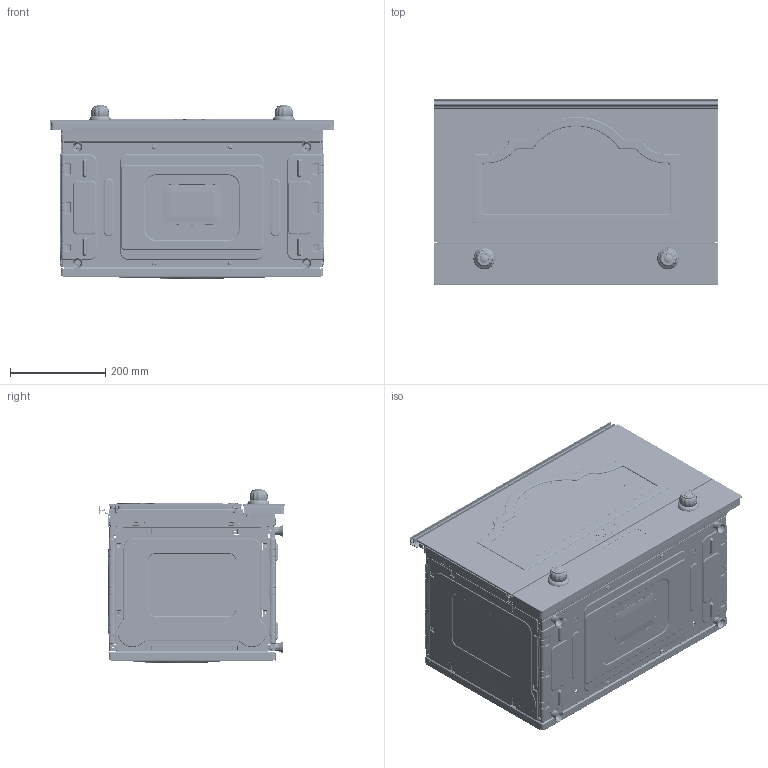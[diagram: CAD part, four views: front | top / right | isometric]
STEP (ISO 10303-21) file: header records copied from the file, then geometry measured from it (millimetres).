
FILE_DESCRIPTION((''),'2;1');
FILE_NAME('192040004_ASM','2025-05-15T11:22:29',('rui.goncalves'),('TCA'),'CREO PARAMETRIC BY PTC INC, 2022484','CREO PARAMETRIC BY PTC INC, 2022484','');
FILE_SCHEMA(('AUTOMOTIVE_DESIGN { 1 0 10303 214 1 1 1 1 }'));
Products named in the file (62): 1730035; 1730038; 1730040; 1730036; 1730034; 1730037; 1730026; 1730027; 1730028; 1730029; 1760008_ASM; 1760011_ASM; 1730048; 1730048_CONJ_ASM; 1720008; 953311; 953310; 1730044; 1730124; 1760003; 1760063; 1760064; 1730141; 163304; 1730138; 1730560; 1760418_ASM; 1630624; 1760417_ASM; 1760002; 1730204; 1730506; 1630619; 1760420_ASM; 1730030; 1730032; 1760009_ASM; 1730049; 1760017; 1730054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
Assembly tree (93 placements, depth 4):
  192040004_ASM
    1760011_ASM
      1730035
      1730038
      1730040
      1730036
      1730034
      1730037
      1760008_ASM
        1730026
        1730027
        1730028
        1730029
    1730048_CONJ_ASM
      1730048
    1720008
    953311  x6
    953310  x18
    1730044
    1730124
    1760417_ASM
      1760418_ASM
        1760003
        1760063
        1760064  x2
        1730141
        163304
        1730138
        1730560
      1630624  x2
    1760419_ASM
      1760420_ASM
        1760002
        1730204
        1730506
        1630619
      1760009_ASM
        1730030
        1730032
      1730049  x2
      1730123_ASM
        1760017
        1730054
      1730122_ASM
        1760016
        1730054
      1730014
      1730015
      1730012
      183466
      1730011
      1730516
    1730042
    1730043
    1730096
    1730045
    1730046
    1730047
    1730063
    1730062
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Bounding box: 595 x 389.8 x 365.4 mm (x, y, z)
Volume: 3540541.7 mm3; surface area: 5907961.9 mm2
Topology: 110 solids, 379 shells, 32802 faces, 86553 edges, 54408 vertices
Faces by surface type: plane 16426, cylinder 9315, bspline 2428, cone 2418, torus 1915, sphere 262, revolution 36, extrusion 2
Entity records: 1281992 total; most frequent: CARTESIAN_POINT 403025, ORIENTED_EDGE 141695, DIRECTION 137600, EDGE_CURVE 71516, PRESENTATION_STYLE_ASSIGNMENT 60167, STYLED_ITEM 59964, CURVE_STYLE 59679, AXIS2_PLACEMENT_3D 46565
